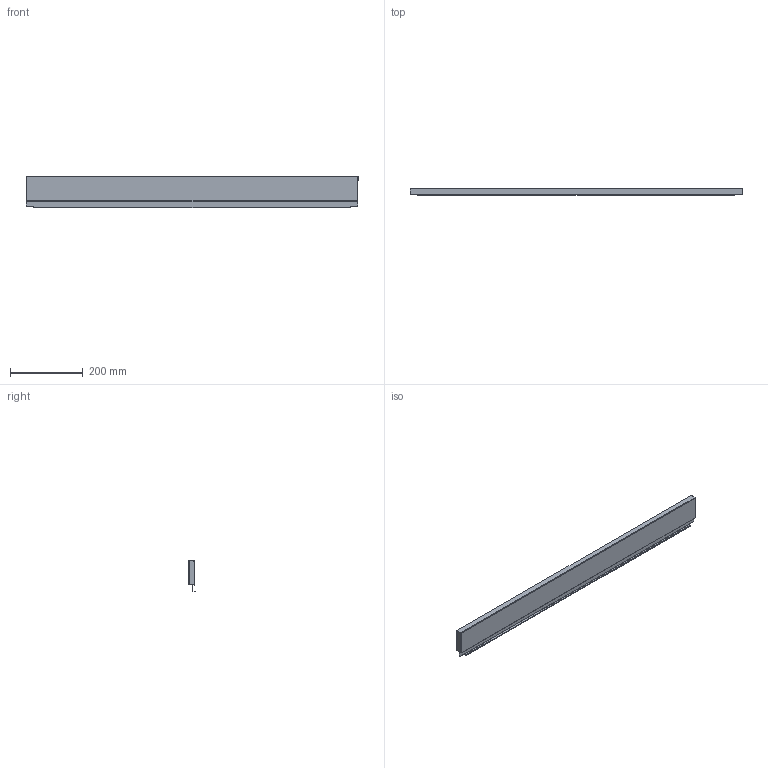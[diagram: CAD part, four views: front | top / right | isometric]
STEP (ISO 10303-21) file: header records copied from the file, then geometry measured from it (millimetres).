
FILE_DESCRIPTION (( 'STEP AP214' ), '1' );
FILE_NAME ('_STRW_H90_KAB_1000.step', '2010-08-24T14:40:19', ( 'grass' ), ( '' ), 'SwSTEP 2.0', 'SolidWorks 2009', '' );
FILE_SCHEMA (( 'AUTOMOTIVE_DESIGN' ));
Length unit declared in the file: millimetre
Products named in the file (1): _STRW_H90_KAB_1000
Bounding box: 910 x 17 x 85.14 mm (x, y, z)
Volume: 83308.3 mm3; surface area: 209984.5 mm2
Topology: 1 solids, 1 shells, 76 faces, 214 edges, 140 vertices
Faces by surface type: plane 54, cylinder 22
Entity records: 2472 total; most frequent: CARTESIAN_POINT 431, ORIENTED_EDGE 428, DIRECTION 412, EDGE_CURVE 214, LINE 170, VECTOR 170, VERTEX_POINT 140, AXIS2_PLACEMENT_3D 121
